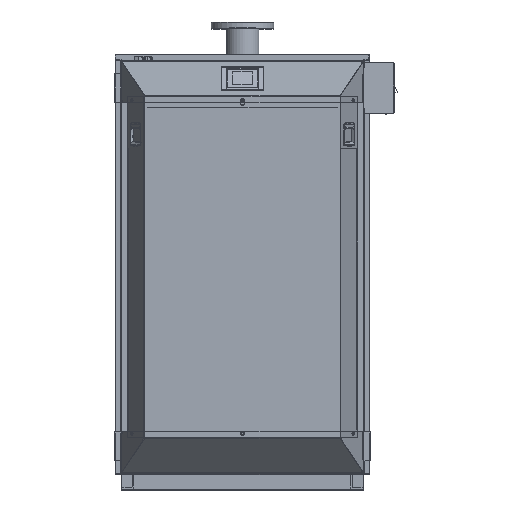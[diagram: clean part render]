
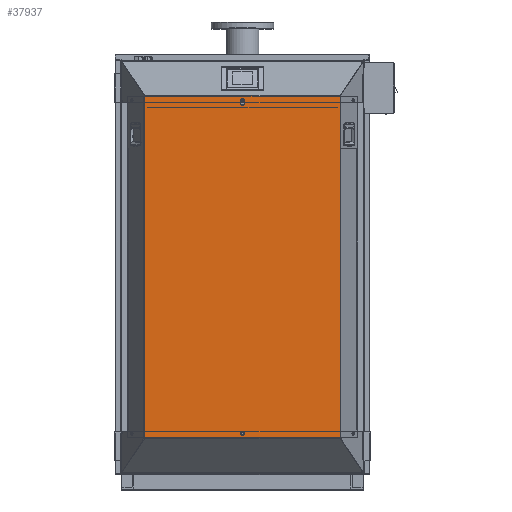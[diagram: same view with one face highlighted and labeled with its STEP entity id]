
A CAD part, top view. The second image highlights one B-rep face of the part: STEP entity #37937.
In plain terms, the highlighted planar face has unit normal (0, 0, 1).
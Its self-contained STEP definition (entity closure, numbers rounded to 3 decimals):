
#474 = VERTEX_POINT ( 'NONE', #21335 ) ;
#1121 = DIRECTION ( 'NONE',  ( 1., 0., 0. ) ) ;
#1307 = VECTOR ( 'NONE', #88806, 1000. ) ;
#2312 = DIRECTION ( 'NONE',  ( 0., 0., 1. ) ) ;
#4286 = DIRECTION ( 'NONE',  ( 1., 0., 0. ) ) ;
#4405 = EDGE_CURVE ( 'NONE', #42390, #43515, #57064, .T. ) ;
#4542 = FACE_BOUND ( 'NONE', #52938, .T. ) ;
#5869 = VERTEX_POINT ( 'NONE', #84526 ) ;
#6593 = DIRECTION ( 'NONE',  ( 0., 1., 0. ) ) ;
#8633 = DIRECTION ( 'NONE',  ( 0., 0., 1. ) ) ;
#9093 = DIRECTION ( 'NONE',  ( 0., 0., -1. ) ) ;
#9109 = ORIENTED_EDGE ( 'NONE', *, *, #80909, .F. ) ;
#10291 = VECTOR ( 'NONE', #105109, 1000. ) ;
#10508 = LINE ( 'NONE', #44956, #105778 ) ;
#13024 = EDGE_CURVE ( 'NONE', #30887, #88093, #99456, .T. ) ;
#14110 = CIRCLE ( 'NONE', #88177, 4. ) ;
#17093 = EDGE_CURVE ( 'NONE', #59748, #30887, #74363, .T. ) ;
#17519 = DIRECTION ( 'NONE',  ( 1., 0., 0. ) ) ;
#19926 = VERTEX_POINT ( 'NONE', #49526 ) ;
#20426 = CARTESIAN_POINT ( 'NONE',  ( -489.211, 343.925, 1249.733 ) ) ;
#20826 = VERTEX_POINT ( 'NONE', #42461 ) ;
#21335 = CARTESIAN_POINT ( 'NONE',  ( -820.761, 329.425, 1249.733 ) ) ;
#22367 = DIRECTION ( 'NONE',  ( 1., 0., 0. ) ) ;
#22949 = CARTESIAN_POINT ( 'NONE',  ( -820.761, -851.075, 1249.733 ) ) ;
#25350 = CARTESIAN_POINT ( 'NONE',  ( -1168.941, 343.925, 1249.733 ) ) ;
#25882 = ORIENTED_EDGE ( 'NONE', *, *, #85300, .T. ) ;
#26653 = AXIS2_PLACEMENT_3D ( 'NONE', #38969, #2312, #36742 ) ;
#28843 = ORIENTED_EDGE ( 'NONE', *, *, #109577, .T. ) ;
#30173 = CARTESIAN_POINT ( 'NONE',  ( -828.761, 326.354, 1249.733 ) ) ;
#30887 = VERTEX_POINT ( 'NONE', #30173 ) ;
#31926 = LINE ( 'NONE', #101433, #103795 ) ;
#34903 = EDGE_LOOP ( 'NONE', ( #110182, #9109, #77247, #91358 ) ) ;
#35647 = EDGE_CURVE ( 'NONE', #71908, #5869, #53734, .T. ) ;
#36164 = EDGE_CURVE ( 'NONE', #68392, #20826, #90160, .T. ) ;
#36218 = CARTESIAN_POINT ( 'NONE',  ( -480.581, -851.075, 1249.733 ) ) ;
#36266 = CARTESIAN_POINT ( 'NONE',  ( -480.581, -851.075, 1249.733 ) ) ;
#36479 = DIRECTION ( 'NONE',  ( -1., 0., 0. ) ) ;
#36722 = ORIENTED_EDGE ( 'NONE', *, *, #35647, .T. ) ;
#36742 = DIRECTION ( 'NONE',  ( 1., 0., 0. ) ) ;
#37300 = FACE_OUTER_BOUND ( 'NONE', #62723, .T. ) ;
#37937 = ADVANCED_FACE ( 'NONE', ( #4542, #37300, #63344 ), #107335, .T. ) ;
#38803 = ORIENTED_EDGE ( 'NONE', *, *, #95942, .T. ) ;
#38969 = CARTESIAN_POINT ( 'NONE',  ( -1169.011, -851.075, 1249.733 ) ) ;
#39806 = CARTESIAN_POINT ( 'NONE',  ( -1160.311, 343.925, 1249.733 ) ) ;
#42390 = VERTEX_POINT ( 'NONE', #39806 ) ;
#42461 = CARTESIAN_POINT ( 'NONE',  ( -1160.311, -851.075, 1249.733 ) ) ;
#43066 = DIRECTION ( 'NONE',  ( 1., 0., 0. ) ) ;
#43378 = DIRECTION ( 'NONE',  ( 1., 0., 0. ) ) ;
#43515 = VERTEX_POINT ( 'NONE', #104631 ) ;
#44139 = ORIENTED_EDGE ( 'NONE', *, *, #74673, .T. ) ;
#44772 = VECTOR ( 'NONE', #108797, 1000. ) ;
#44956 = CARTESIAN_POINT ( 'NONE',  ( -1169.011, 343.925, 1249.733 ) ) ;
#47201 = CIRCLE ( 'NONE', #110326, 4. ) ;
#48576 = DIRECTION ( 'NONE',  ( -1., 0., 0. ) ) ;
#49299 = ORIENTED_EDGE ( 'NONE', *, *, #53685, .T. ) ;
#49526 = CARTESIAN_POINT ( 'NONE',  ( -489.211, 343.925, 1249.733 ) ) ;
#51972 = CARTESIAN_POINT ( 'NONE',  ( -1160.311, -851.075, 1249.733 ) ) ;
#52938 = EDGE_LOOP ( 'NONE', ( #72949 ) ) ;
#53211 = VECTOR ( 'NONE', #48576, 1000. ) ;
#53685 = EDGE_CURVE ( 'NONE', #5869, #19926, #10508, .T. ) ;
#53734 = LINE ( 'NONE', #36218, #10291 ) ;
#56480 = VERTEX_POINT ( 'NONE', #105601 ) ;
#57064 = LINE ( 'NONE', #66671, #53211 ) ;
#59748 = VERTEX_POINT ( 'NONE', #72175 ) ;
#59825 = DIRECTION ( 'NONE',  ( 0., -1., 0. ) ) ;
#62723 = EDGE_LOOP ( 'NONE', ( #49299, #44139, #91424, #38803, #85600, #25882, #28843, #36722 ) ) ;
#63344 = FACE_BOUND ( 'NONE', #34903, .T. ) ;
#64250 = CARTESIAN_POINT ( 'NONE',  ( -828.761, -851.075, 1249.733 ) ) ;
#65034 = EDGE_CURVE ( 'NONE', #474, #59748, #14110, .T. ) ;
#66671 = CARTESIAN_POINT ( 'NONE',  ( -1169.011, 343.925, 1249.733 ) ) ;
#68392 = VERTEX_POINT ( 'NONE', #85944 ) ;
#71679 = VECTOR ( 'NONE', #4286, 1000. ) ;
#71908 = VERTEX_POINT ( 'NONE', #36266 ) ;
#72175 = CARTESIAN_POINT ( 'NONE',  ( -828.761, 329.425, 1249.733 ) ) ;
#72949 = ORIENTED_EDGE ( 'NONE', *, *, #92955, .T. ) ;
#74363 = LINE ( 'NONE', #64250, #44772 ) ;
#74673 = EDGE_CURVE ( 'NONE', #19926, #42390, #79771, .T. ) ;
#76165 = DIRECTION ( 'NONE',  ( 0., 0., 1. ) ) ;
#77247 = ORIENTED_EDGE ( 'NONE', *, *, #13024, .F. ) ;
#79771 = LINE ( 'NONE', #20426, #1307 ) ;
#80909 = EDGE_CURVE ( 'NONE', #88093, #474, #81756, .T. ) ;
#81756 = LINE ( 'NONE', #22949, #99695 ) ;
#84229 = VECTOR ( 'NONE', #59825, 1000. ) ;
#84526 = CARTESIAN_POINT ( 'NONE',  ( -480.581, 343.925, 1249.733 ) ) ;
#84638 = CARTESIAN_POINT ( 'NONE',  ( -824.761, 329.425, 1249.733 ) ) ;
#85216 = LINE ( 'NONE', #25350, #84229 ) ;
#85300 = EDGE_CURVE ( 'NONE', #20826, #56480, #102825, .T. ) ;
#85600 = ORIENTED_EDGE ( 'NONE', *, *, #36164, .T. ) ;
#85944 = CARTESIAN_POINT ( 'NONE',  ( -1168.941, -851.075, 1249.733 ) ) ;
#87653 = CARTESIAN_POINT ( 'NONE',  ( -820.761, -836.575, 1249.733 ) ) ;
#88093 = VERTEX_POINT ( 'NONE', #98470 ) ;
#88177 = AXIS2_PLACEMENT_3D ( 'NONE', #84638, #76165, #43378 ) ;
#88706 = CARTESIAN_POINT ( 'NONE',  ( -824.761, -836.575, 1249.733 ) ) ;
#88806 = DIRECTION ( 'NONE',  ( -1., 0., 0. ) ) ;
#89576 = VECTOR ( 'NONE', #1121, 1000. ) ;
#90160 = LINE ( 'NONE', #105421, #71679 ) ;
#91358 = ORIENTED_EDGE ( 'NONE', *, *, #17093, .F. ) ;
#91424 = ORIENTED_EDGE ( 'NONE', *, *, #4405, .T. ) ;
#92955 = EDGE_CURVE ( 'NONE', #105688, #105688, #47201, .T. ) ;
#95942 = EDGE_CURVE ( 'NONE', #43515, #68392, #85216, .T. ) ;
#96158 = CARTESIAN_POINT ( 'NONE',  ( -824.761, 319.425, 1249.733 ) ) ;
#98470 = CARTESIAN_POINT ( 'NONE',  ( -820.761, 326.354, 1249.733 ) ) ;
#99456 = CIRCLE ( 'NONE', #104859, 8. ) ;
#99695 = VECTOR ( 'NONE', #6593, 1000. ) ;
#101433 = CARTESIAN_POINT ( 'NONE',  ( -1169.011, -851.075, 1249.733 ) ) ;
#102825 = LINE ( 'NONE', #51972, #89576 ) ;
#103795 = VECTOR ( 'NONE', #22367, 1000. ) ;
#104631 = CARTESIAN_POINT ( 'NONE',  ( -1168.941, 343.925, 1249.733 ) ) ;
#104859 = AXIS2_PLACEMENT_3D ( 'NONE', #96158, #8633, #43066 ) ;
#105109 = DIRECTION ( 'NONE',  ( 0., 1., 0. ) ) ;
#105421 = CARTESIAN_POINT ( 'NONE',  ( -1169.011, -851.075, 1249.733 ) ) ;
#105601 = CARTESIAN_POINT ( 'NONE',  ( -489.211, -851.075, 1249.733 ) ) ;
#105688 = VERTEX_POINT ( 'NONE', #87653 ) ;
#105778 = VECTOR ( 'NONE', #36479, 1000. ) ;
#107335 = PLANE ( 'NONE',  #26653 ) ;
#108797 = DIRECTION ( 'NONE',  ( 0., -1., 0. ) ) ;
#109577 = EDGE_CURVE ( 'NONE', #56480, #71908, #31926, .T. ) ;
#110182 = ORIENTED_EDGE ( 'NONE', *, *, #65034, .F. ) ;
#110326 = AXIS2_PLACEMENT_3D ( 'NONE', #88706, #9093, #17519 ) ;
